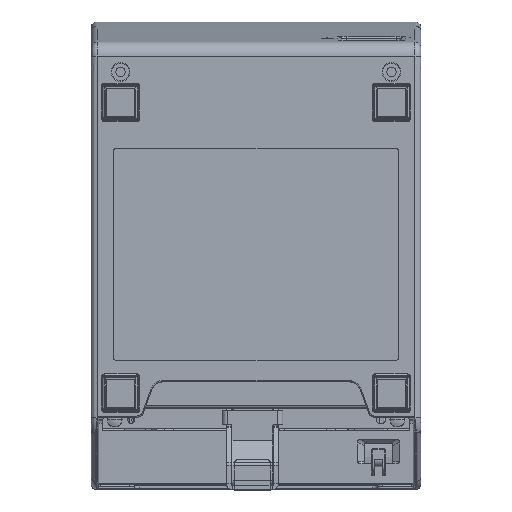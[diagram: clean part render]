
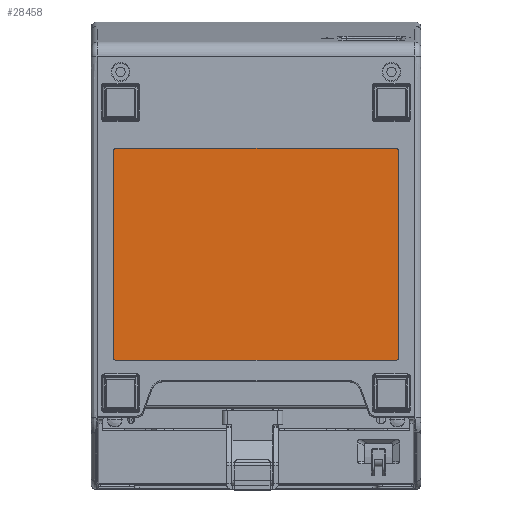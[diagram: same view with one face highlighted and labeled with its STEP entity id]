
A CAD part, front view. The second image highlights one B-rep face of the part: STEP entity #28458.
In plain terms, the highlighted planar face has unit normal (0, -1, 0).
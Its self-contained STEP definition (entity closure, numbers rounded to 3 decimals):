
#10418=CARTESIAN_POINT('',(-59.5,0.4,-56.));
#10419=DIRECTION('',(0.,-1.,0.));
#10420=DIRECTION('',(0.,0.,1.));
#10421=AXIS2_PLACEMENT_3D('',#10418,#10419,#10420);
#10423=DIRECTION('',(-1.,0.,0.));
#10424=VECTOR('',#10423,119.);
#10425=CARTESIAN_POINT('',(59.5,0.4,-55.));
#10426=LINE('',#10425,#10424);
#10427=CARTESIAN_POINT('',(59.5,0.4,-56.));
#10428=DIRECTION('',(0.,-1.,0.));
#10429=DIRECTION('',(1.,0.,0.));
#10430=AXIS2_PLACEMENT_3D('',#10427,#10428,#10429);
#10432=DIRECTION('',(0.,0.,1.));
#10433=VECTOR('',#10432,88.);
#10434=CARTESIAN_POINT('',(60.5,0.4,-144.));
#10435=LINE('',#10434,#10433);
#10436=CARTESIAN_POINT('',(59.5,0.4,-144.));
#10437=DIRECTION('',(0.,-1.,0.));
#10438=DIRECTION('',(0.,0.,-1.));
#10439=AXIS2_PLACEMENT_3D('',#10436,#10437,#10438);
#10441=DIRECTION('',(1.,0.,0.));
#10442=VECTOR('',#10441,119.);
#10443=CARTESIAN_POINT('',(-59.5,0.4,-145.));
#10444=LINE('',#10443,#10442);
#10445=CARTESIAN_POINT('',(-59.5,0.4,-144.));
#10446=DIRECTION('',(0.,-1.,0.));
#10447=DIRECTION('',(-1.,0.,0.));
#10448=AXIS2_PLACEMENT_3D('',#10445,#10446,#10447);
#10450=DIRECTION('',(0.,0.,-1.));
#10451=VECTOR('',#10450,88.);
#10452=CARTESIAN_POINT('',(-60.5,0.4,-56.));
#10453=LINE('',#10452,#10451);
#11790=CARTESIAN_POINT('',(-59.5,0.4,-55.));
#11791=CARTESIAN_POINT('',(-60.5,0.4,-56.));
#11792=VERTEX_POINT('',#11790);
#11793=VERTEX_POINT('',#11791);
#11798=CARTESIAN_POINT('',(60.5,0.4,-56.));
#11799=CARTESIAN_POINT('',(59.5,0.4,-55.));
#11800=VERTEX_POINT('',#11798);
#11801=VERTEX_POINT('',#11799);
#11806=CARTESIAN_POINT('',(59.5,0.4,-145.));
#11807=CARTESIAN_POINT('',(60.5,0.4,-144.));
#11808=VERTEX_POINT('',#11806);
#11809=VERTEX_POINT('',#11807);
#11814=CARTESIAN_POINT('',(-60.5,0.4,-144.));
#11815=CARTESIAN_POINT('',(-59.5,0.4,-145.));
#11816=VERTEX_POINT('',#11814);
#11817=VERTEX_POINT('',#11815);
#28437=CARTESIAN_POINT('',(0.,0.4,0.));
#28438=DIRECTION('',(0.,-1.,0.));
#28439=DIRECTION('',(1.,0.,0.));
#28440=AXIS2_PLACEMENT_3D('',#28437,#28438,#28439);
#28441=PLANE('',#28440);
#28443=ORIENTED_EDGE('',*,*,#28442,.F.);
#28445=ORIENTED_EDGE('',*,*,#28444,.F.);
#28446=ORIENTED_EDGE('',*,*,#28428,.F.);
#28447=ORIENTED_EDGE('',*,*,#28418,.F.);
#28449=ORIENTED_EDGE('',*,*,#28448,.F.);
#28451=ORIENTED_EDGE('',*,*,#28450,.F.);
#28453=ORIENTED_EDGE('',*,*,#28452,.F.);
#28455=ORIENTED_EDGE('',*,*,#28454,.F.);
#28456=EDGE_LOOP('',(#28443,#28445,#28446,#28447,#28449,#28451,#28453,#28455));
#28457=FACE_OUTER_BOUND('',#28456,.F.);
#10422=CIRCLE('',#10421,1.);
#10431=CIRCLE('',#10430,1.);
#10440=CIRCLE('',#10439,1.);
#10449=CIRCLE('',#10448,1.);
#28418=EDGE_CURVE('',#11809,#11800,#10435,.T.);
#28428=EDGE_CURVE('',#11800,#11801,#10431,.T.);
#28442=EDGE_CURVE('',#11792,#11793,#10422,.T.);
#28444=EDGE_CURVE('',#11801,#11792,#10426,.T.);
#28448=EDGE_CURVE('',#11808,#11809,#10440,.T.);
#28450=EDGE_CURVE('',#11817,#11808,#10444,.T.);
#28452=EDGE_CURVE('',#11816,#11817,#10449,.T.);
#28454=EDGE_CURVE('',#11793,#11816,#10453,.T.);
#28458=ADVANCED_FACE('',(#28457),#28441,.T.);
